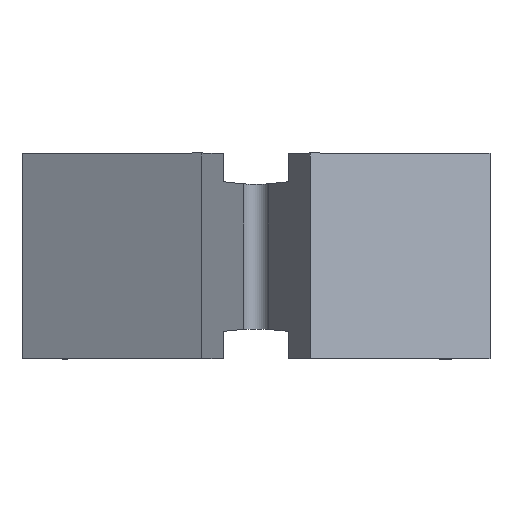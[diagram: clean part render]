
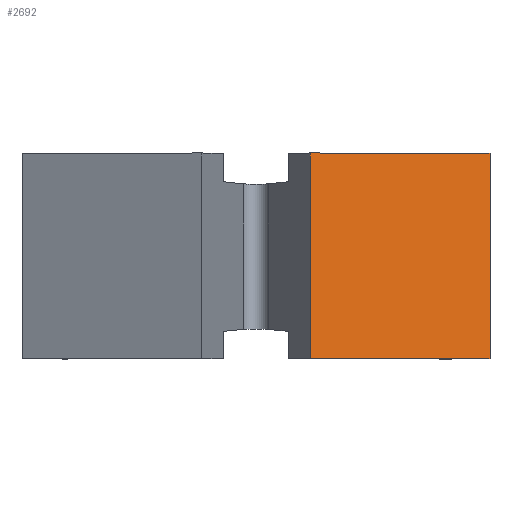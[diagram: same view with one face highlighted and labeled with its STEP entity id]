
A CAD part, top view. The second image highlights one B-rep face of the part: STEP entity #2692.
In plain terms, the highlighted planar face has unit normal (0.5, 0, 0.866) as drawn and (-0.5, 0.866, 0) by its records, which use the part's own axes.
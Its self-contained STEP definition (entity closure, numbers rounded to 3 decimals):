
#1641=PLANE('',#3612);
#1738=VECTOR('',#2908,1.);
#1742=VECTOR('',#2914,1.);
#1743=VECTOR('',#2917,1.);
#1745=VECTOR('',#2921,1.);
#1836=LINE('',#3442,#1738);
#1840=LINE('',#3448,#1742);
#1841=LINE('',#3451,#1743);
#1843=LINE('',#3454,#1745);
#2144=ORIENTED_EDGE('',*,*,#2492,.F.);
#2145=ORIENTED_EDGE('',*,*,#2493,.T.);
#2146=ORIENTED_EDGE('',*,*,#2495,.F.);
#2147=ORIENTED_EDGE('',*,*,#2488,.F.);
#2349=VERTEX_POINT('',#3439);
#2350=VERTEX_POINT('',#3441);
#2351=VERTEX_POINT('',#3446);
#2352=VERTEX_POINT('',#3450);
#2488=EDGE_CURVE('',#2349,#2350,#1836,.T.);
#2492=EDGE_CURVE('',#2351,#2349,#1840,.T.);
#2493=EDGE_CURVE('',#2351,#2352,#1841,.T.);
#2495=EDGE_CURVE('',#2350,#2352,#1843,.T.);
#2565=EDGE_LOOP('',(#2144,#2145,#2146,#2147));
#2631=FACE_BOUND('',#2565,.T.);
#2692=ADVANCED_FACE('',(#2631),#1641,.T.);
#2908=DIRECTION('',(0.,0.,4.));
#2914=DIRECTION('',(3.493,2.017,0.));
#2917=DIRECTION('',(0.,0.,4.));
#2919=DIRECTION('',(-0.5,0.866,0.));
#2920=DIRECTION('',(0.866,0.5,0.));
#2921=DIRECTION('',(-3.493,-2.017,0.));
#3439=CARTESIAN_POINT('',(17.193,16.193,-1.994));
#3441=CARTESIAN_POINT('',(17.193,16.193,2.006));
#3442=CARTESIAN_POINT('',(17.193,16.193,-1.994));
#3446=CARTESIAN_POINT('',(13.7,14.177,-1.994));
#3448=CARTESIAN_POINT('',(13.7,14.177,-1.994));
#3450=CARTESIAN_POINT('',(13.7,14.177,2.006));
#3451=CARTESIAN_POINT('',(13.7,14.177,-1.994));
#3453=CARTESIAN_POINT('',(13.7,14.177,0.006));
#3454=CARTESIAN_POINT('',(17.193,16.193,2.006));
#3612=AXIS2_PLACEMENT_3D('',#3453,#2919,#2920);
